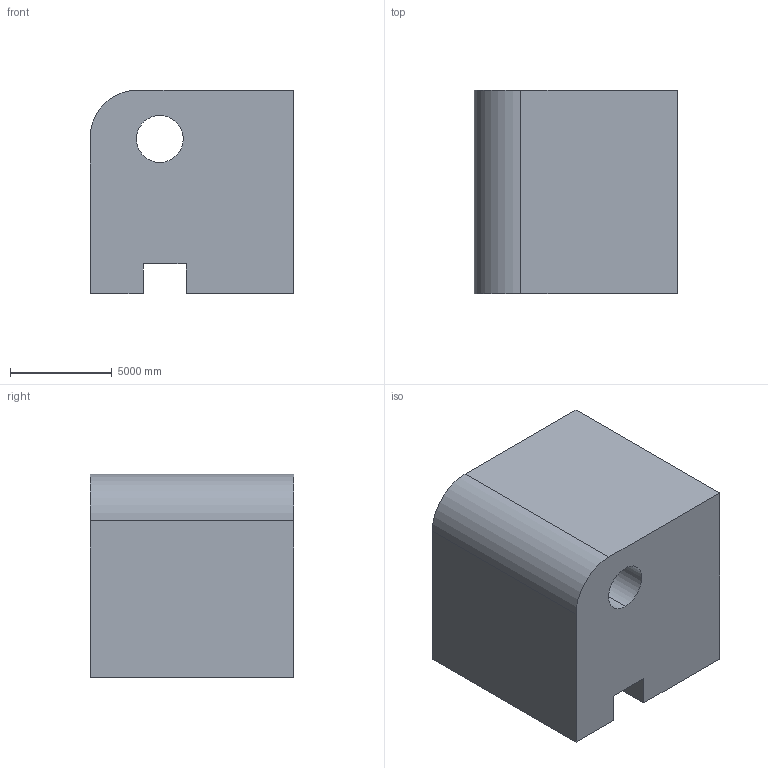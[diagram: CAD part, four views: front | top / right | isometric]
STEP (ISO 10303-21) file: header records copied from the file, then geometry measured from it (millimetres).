
FILE_DESCRIPTION (( 'STEP AP203' ), '1' );
FILE_NAME ('1227.STEP', '2022-08-18T13:17:03', ( 'user' ), ( '' ), 'SwSTEP 2.0', 'SolidWorks 2021', '' );
FILE_SCHEMA (( 'CONFIG_CONTROL_DESIGN' ));
Length unit declared in the file: centimetre
Products named in the file (1): 1227
Bounding box: 10000 x 10000 x 10000 mm (x, y, z)
Volume: 916087230573.6 mm3; surface area: 675118909.1 mm2
Topology: 1 solids, 1 shells, 13 faces, 33 edges, 22 vertices
Faces by surface type: plane 10, cylinder 3
Entity records: 474 total; most frequent: CARTESIAN_POINT 69, DIRECTION 67, ORIENTED_EDGE 66, EDGE_CURVE 33, LINE 27, VECTOR 27, VERTEX_POINT 22, AXIS2_PLACEMENT_3D 20
